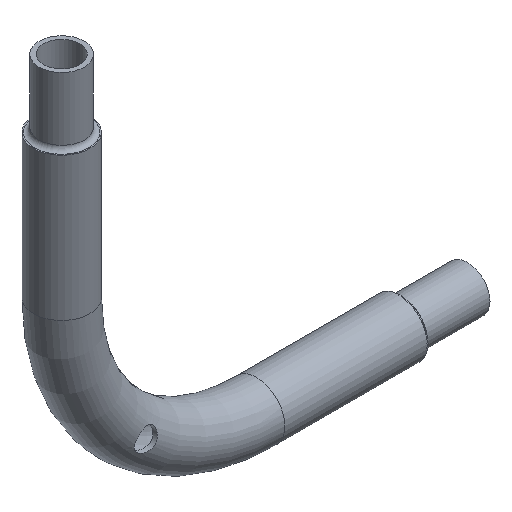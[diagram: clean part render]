
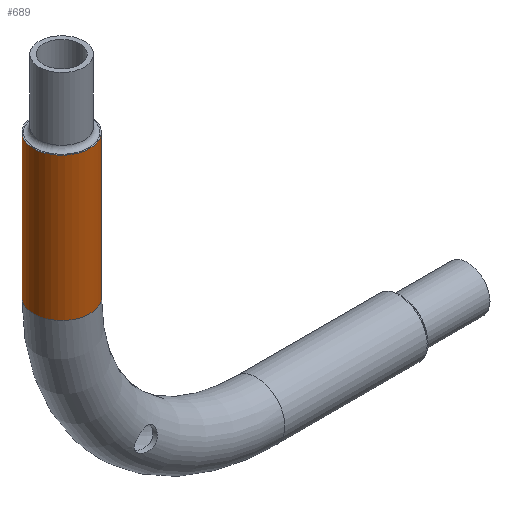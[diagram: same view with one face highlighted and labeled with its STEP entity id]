
A CAD part, isometric view. The second image highlights one B-rep face of the part: STEP entity #689.
In plain terms, the highlighted cylindrical face has radius 12.5 mm (diameter 25 mm), a full revolution.
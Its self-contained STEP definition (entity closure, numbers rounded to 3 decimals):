
#593=CARTESIAN_POINT('',(12.5,0.,0.0));
#594=VERTEX_POINT('',#593);
#595=CARTESIAN_POINT('',(0.0,0.0,0.0));
#596=DIRECTION('',(0.0,0.0,-1.0));
#597=DIRECTION('',(-1.0,0.0,0.0));
#598=AXIS2_PLACEMENT_3D('',#595,#596,#597);
#599=CIRCLE('',#598,12.5);
#600=EDGE_CURVE('',#594,#594,#599,.T.);
#666=CARTESIAN_POINT('',(12.5,0.,-63.5));
#667=VERTEX_POINT('',#666);
#668=CARTESIAN_POINT('',(0.0,0.0,-63.5));
#669=DIRECTION('',(0.0,0.0,1.0));
#670=DIRECTION('',(-1.0,0.0,0.0));
#671=AXIS2_PLACEMENT_3D('',#668,#669,#670);
#672=CIRCLE('',#671,12.5);
#673=EDGE_CURVE('',#667,#667,#672,.T.);
#678=CARTESIAN_POINT('',(0.0,0.0,0.0));
#679=DIRECTION('',(0.0,0.0,-1.0));
#680=DIRECTION('',(-1.0,0.0,0.0));
#681=AXIS2_PLACEMENT_3D('',#678,#679,#680);
#682=CYLINDRICAL_SURFACE('',#681,12.5);
#683=ORIENTED_EDGE('',*,*,#673,.T.);
#684=EDGE_LOOP('',(#683));
#685=FACE_OUTER_BOUND('',#684,.T.);
#686=ORIENTED_EDGE('',*,*,#600,.T.);
#687=EDGE_LOOP('',(#686));
#688=FACE_BOUND('',#687,.T.);
#689=ADVANCED_FACE('',(#685,#688),#682,.T.);
